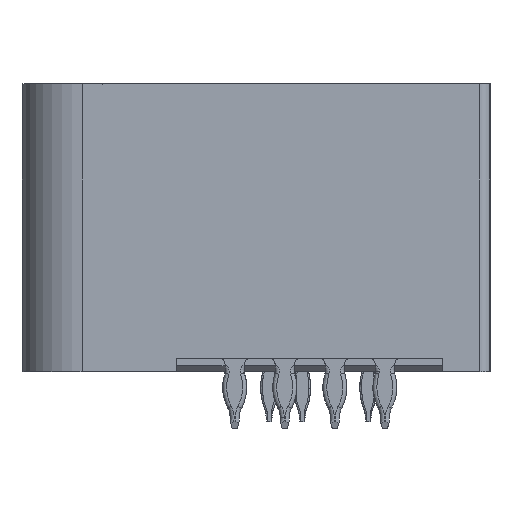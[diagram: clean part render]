
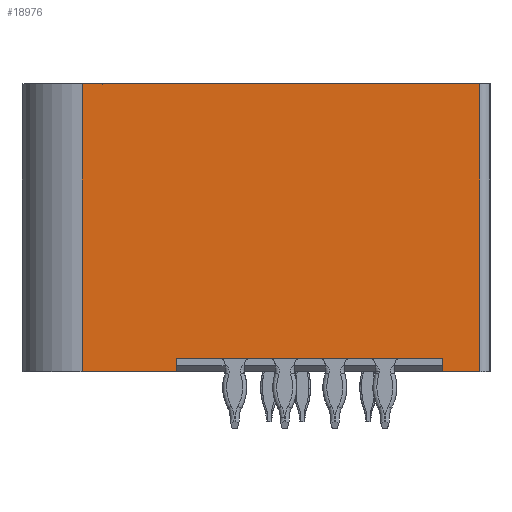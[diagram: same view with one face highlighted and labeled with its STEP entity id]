
A CAD part, left-side view. The second image highlights one B-rep face of the part: STEP entity #18976.
In plain terms, the highlighted planar face has unit normal (-1, 0, 0).
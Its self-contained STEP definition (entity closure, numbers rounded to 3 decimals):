
#8746 = EDGE_CURVE ( 'NONE', #175986, #175419, #184992, .T. ) ;
#8827 = EDGE_CURVE ( 'NONE', #175449, #175419, #185498, .T. ) ;
#10318 = EDGE_CURVE ( 'NONE', #127562, #126754, #181887, .T. ) ;
#10951 = EDGE_CURVE ( 'NONE', #126754, #176100, #180445, .T. ) ;
#18976 = ADVANCED_FACE ( 'NONE', ( #107038 ), #107094, .F. ) ;
#21448 = EDGE_CURVE ( 'NONE', #176100, #90217, #164679, .T. ) ;
#21455 = EDGE_CURVE ( 'NONE', #175986, #176098, #164723, .T. ) ;
#31328 = VECTOR ( 'NONE', #181925, 1000. ) ;
#31482 = VECTOR ( 'NONE', #185515, 1000. ) ;
#32048 = VECTOR ( 'NONE', #180461, 1000. ) ;
#32303 = VECTOR ( 'NONE', #185013, 1000. ) ;
#37864 = EDGE_LOOP ( 'NONE', ( #69461, #69094, #56675, #68661, #69644, #69436, #68043, #56593 ) ) ;
#43372 = VECTOR ( 'NONE', #74917, 1000. ) ;
#53984 = VECTOR ( 'NONE', #128900, 1000. ) ;
#56593 = ORIENTED_EDGE ( 'NONE', *, *, #10951, .F. ) ;
#56675 = ORIENTED_EDGE ( 'NONE', *, *, #21455, .F. ) ;
#61692 = EDGE_CURVE ( 'NONE', #176098, #127562, #74911, .T. ) ;
#68043 = ORIENTED_EDGE ( 'NONE', *, *, #21448, .F. ) ;
#68661 = ORIENTED_EDGE ( 'NONE', *, *, #8746, .T. ) ;
#69094 = ORIENTED_EDGE ( 'NONE', *, *, #61692, .F. ) ;
#69436 = ORIENTED_EDGE ( 'NONE', *, *, #119190, .F. ) ;
#69461 = ORIENTED_EDGE ( 'NONE', *, *, #10318, .F. ) ;
#69644 = ORIENTED_EDGE ( 'NONE', *, *, #8827, .F. ) ;
#70272 = CARTESIAN_POINT ( 'NONE',  ( -107.559, 8.447, -5.381 ) ) ;
#70319 = CARTESIAN_POINT ( 'NONE',  ( -107.559, -4.833, -5.381 ) ) ;
#71004 = CARTESIAN_POINT ( 'NONE',  ( -107.559, 8.447, -6.051 ) ) ;
#71152 = CARTESIAN_POINT ( 'NONE',  ( -107.559, 13.177, -6.051 ) ) ;
#71155 = CARTESIAN_POINT ( 'NONE',  ( -107.559, -6.693, -6.051 ) ) ;
#74911 = LINE ( 'NONE', #74915, #43372 ) ;
#74915 = CARTESIAN_POINT ( 'NONE',  ( -107.559, 13.177, -6.051 ) ) ;
#74917 = DIRECTION ( 'NONE',  ( 0., 0., 1. ) ) ;
#79028 = CARTESIAN_POINT ( 'NONE',  ( -107.559, -6.693, 8.329 ) ) ;
#80723 = CARTESIAN_POINT ( 'NONE',  ( -107.559, 13.177, 8.329 ) ) ;
#90217 = VERTEX_POINT ( 'NONE', #189702 ) ;
#101545 = AXIS2_PLACEMENT_3D ( 'NONE', #107117, #107118, #107120 ) ;
#107038 = FACE_OUTER_BOUND ( 'NONE', #37864, .T. ) ;
#107094 = PLANE ( 'NONE',  #101545 ) ;
#107117 = CARTESIAN_POINT ( 'NONE',  ( -107.559, 12.621, -6.051 ) ) ;
#107118 = DIRECTION ( 'NONE',  ( 1., 0., 0. ) ) ;
#107120 = DIRECTION ( 'NONE',  ( 0., 1., 0. ) ) ;
#119190 = EDGE_CURVE ( 'NONE', #90217, #175449, #128897, .T. ) ;
#126754 = VERTEX_POINT ( 'NONE', #79028 ) ;
#127562 = VERTEX_POINT ( 'NONE', #80723 ) ;
#128339 = VECTOR ( 'NONE', #164730, 1000. ) ;
#128615 = VECTOR ( 'NONE', #164683, 1000. ) ;
#128897 = LINE ( 'NONE', #128898, #53984 ) ;
#128898 = CARTESIAN_POINT ( 'NONE',  ( -107.559, -4.833, -6.051 ) ) ;
#128900 = DIRECTION ( 'NONE',  ( 0., 0., 1. ) ) ;
#164679 = LINE ( 'NONE', #164682, #128615 ) ;
#164682 = CARTESIAN_POINT ( 'NONE',  ( -107.559, 12.621, -6.051 ) ) ;
#164683 = DIRECTION ( 'NONE',  ( 0., 1., 0. ) ) ;
#164723 = LINE ( 'NONE', #164727, #128339 ) ;
#164727 = CARTESIAN_POINT ( 'NONE',  ( -107.559, 12.621, -6.051 ) ) ;
#164730 = DIRECTION ( 'NONE',  ( 0., 1., 0. ) ) ;
#175419 = VERTEX_POINT ( 'NONE', #70272 ) ;
#175449 = VERTEX_POINT ( 'NONE', #70319 ) ;
#175986 = VERTEX_POINT ( 'NONE', #71004 ) ;
#176098 = VERTEX_POINT ( 'NONE', #71152 ) ;
#176100 = VERTEX_POINT ( 'NONE', #71155 ) ;
#180418 = CARTESIAN_POINT ( 'NONE',  ( -107.559, -6.693, -6.051 ) ) ;
#180445 = LINE ( 'NONE', #180418, #32048 ) ;
#180461 = DIRECTION ( 'NONE',  ( 0., 0., -1. ) ) ;
#181887 = LINE ( 'NONE', #181918, #31328 ) ;
#181918 = CARTESIAN_POINT ( 'NONE',  ( -107.559, -7.193, 8.329 ) ) ;
#181925 = DIRECTION ( 'NONE',  ( 0., -1., 0. ) ) ;
#184992 = LINE ( 'NONE', #185007, #32303 ) ;
#185007 = CARTESIAN_POINT ( 'NONE',  ( -107.559, 8.447, -18.455 ) ) ;
#185013 = DIRECTION ( 'NONE',  ( 0., 0., 1. ) ) ;
#185492 = CARTESIAN_POINT ( 'NONE',  ( -107.559, -7.193, -5.381 ) ) ;
#185498 = LINE ( 'NONE', #185492, #31482 ) ;
#185515 = DIRECTION ( 'NONE',  ( 0., 1., 0. ) ) ;
#189702 = CARTESIAN_POINT ( 'NONE',  ( -107.559, -4.833, -6.051 ) ) ;
